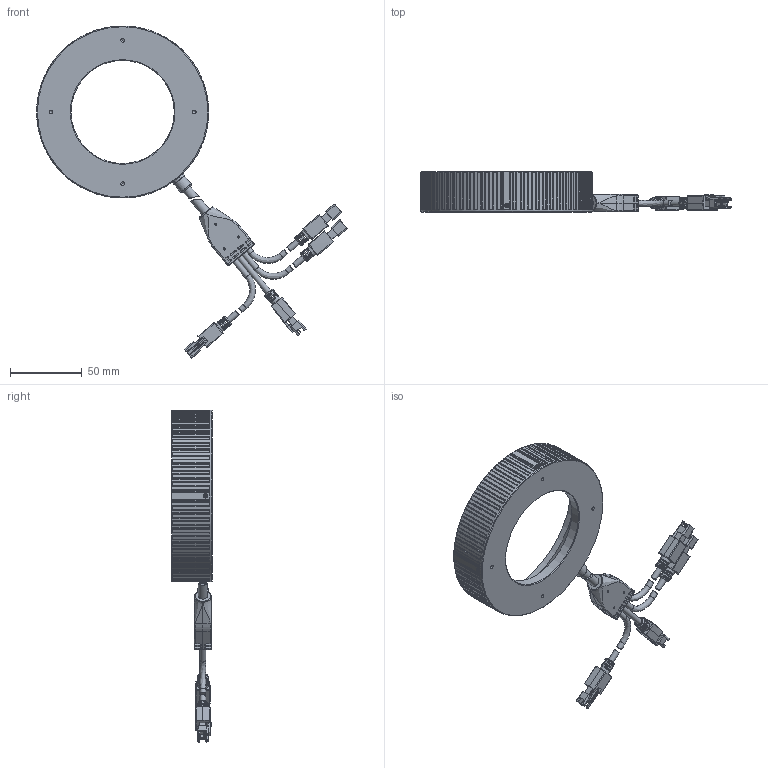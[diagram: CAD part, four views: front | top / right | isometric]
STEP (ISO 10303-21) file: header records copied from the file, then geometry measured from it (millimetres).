
FILE_DESCRIPTION (( 'STEP AP203' ), '1' );
FILE_NAME ('OPT-MSRI12060-X-V1.0尨砩芞.STEP', '2025-02-15T03:42:45', ( '' ), ( '' ), 'SwSTEP 2.0', 'SolidWorks 2016', '' );
FILE_SCHEMA (( 'CONFIG_CONTROL_DESIGN' ));
Length unit declared in the file: millimetre
Products named in the file (1): OPT-MSRI12060-X-V1.0尨砩芞
Bounding box: 216.77 x 28 x 231.68 mm (x, y, z)
Surface area: 57375.3 mm2 (no closed solid volume)
Topology: 0 solids, 24 shells, 1521 faces, 4369 edges, 2830 vertices
Faces by surface type: plane 743, cylinder 579, cone 127, bspline 58, torus 14
Full cylindrical faces by diameter (mm): 1.1 x4, 1.5 x3, 1.6 x4, 2 x4, 2.2 x4, 2.5 x4, 4.1 x10, 5 x1, 6.4 x2, 7.5 x4, 8.6 x1, 9.3 x1, 9.8 x1, 72 x1, 112 x1, 116 x1, 120 x1
Entity records: 57248 total; most frequent: CARTESIAN_POINT 20079, ORIENTED_EDGE 8053, DIRECTION 6929, EDGE_CURVE 4210, VERTEX_POINT 2777, AXIS2_PLACEMENT_3D 2358, LINE 2213, VECTOR 2213
